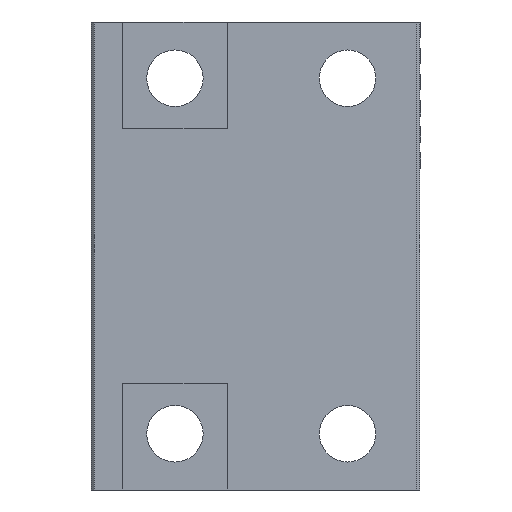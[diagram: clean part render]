
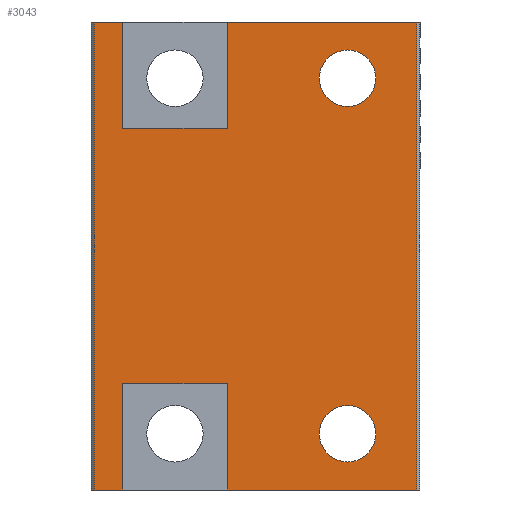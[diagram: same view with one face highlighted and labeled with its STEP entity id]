
A CAD part, front view. The second image highlights one B-rep face of the part: STEP entity #3043.
In plain terms, the highlighted planar face has unit normal (0, -1, 0).
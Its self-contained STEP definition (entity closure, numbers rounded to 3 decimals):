
#604 = FACE_BOUND ( 'NONE', #2742, .T. ) ;
#605 = FACE_BOUND ( 'NONE', #3044, .T. ) ;
#658 = DIRECTION ( 'NONE',  ( 0., 0., 1. ) ) ;
#659 = DIRECTION ( 'NONE',  ( 0., 1., 0. ) ) ;
#660 = CARTESIAN_POINT ( 'NONE',  ( 33., 6.8, 34. ) ) ;
#661 = AXIS2_PLACEMENT_3D ( 'NONE', #660, #659, #658 ) ;
#662 = DIRECTION ( 'NONE',  ( 0., 0., 1. ) ) ;
#663 = DIRECTION ( 'NONE',  ( 0., 1., 0. ) ) ;
#664 = CARTESIAN_POINT ( 'NONE',  ( 10., 6.8, 44.75 ) ) ;
#665 = AXIS2_PLACEMENT_3D ( 'NONE', #664, #663, #662 ) ;
#666 = CIRCLE ( 'NONE', #661, 5.4 ) ;
#667 = PLANE ( 'NONE',  #665 ) ;
#668 = FACE_OUTER_BOUND ( 'NONE', #2810, .T. ) ;
#2232 = DIRECTION ( 'NONE',  ( -1., 0., 0. ) ) ;
#2233 = VECTOR ( 'NONE', #2232, 1000. ) ;
#2234 = CARTESIAN_POINT ( 'NONE',  ( -16., 6.8, -24.4 ) ) ;
#2235 = LINE ( 'NONE', #2234, #2233 ) ;
#2236 = DIRECTION ( 'NONE',  ( 0., 0., -1. ) ) ;
#2237 = VECTOR ( 'NONE', #2236, 1000. ) ;
#2238 = CARTESIAN_POINT ( 'NONE',  ( 46.2, 6.8, 44.751 ) ) ;
#2239 = LINE ( 'NONE', #2238, #2237 ) ;
#2241 = CARTESIAN_POINT ( 'NONE',  ( 46.2, 6.8, -44.75 ) ) ;
#2242 = DIRECTION ( 'NONE',  ( 1., 0., 0. ) ) ;
#2243 = VECTOR ( 'NONE', #2242, 1000. ) ;
#2244 = CARTESIAN_POINT ( 'NONE',  ( 10., 6.8, -44.75 ) ) ;
#2245 = LINE ( 'NONE', #2244, #2243 ) ;
#2253 = CARTESIAN_POINT ( 'NONE',  ( 10., 6.8, -44.75 ) ) ;
#2289 = CARTESIAN_POINT ( 'NONE',  ( -10., 6.8, 24.4 ) ) ;
#2290 = DIRECTION ( 'NONE',  ( 1., 0., 0. ) ) ;
#2291 = VECTOR ( 'NONE', #2290, 1000. ) ;
#2292 = CARTESIAN_POINT ( 'NONE',  ( -16., 6.8, 24.4 ) ) ;
#2293 = LINE ( 'NONE', #2292, #2291 ) ;
#2294 = CARTESIAN_POINT ( 'NONE',  ( 10., 6.8, 24.4 ) ) ;
#2295 = DIRECTION ( 'NONE',  ( 0., 0., -1. ) ) ;
#2296 = VECTOR ( 'NONE', #2295, 1000. ) ;
#2297 = CARTESIAN_POINT ( 'NONE',  ( 10., 6.8, 44.75 ) ) ;
#2298 = LINE ( 'NONE', #2297, #2296 ) ;
#2299 = CARTESIAN_POINT ( 'NONE',  ( 10., 6.8, 44.75 ) ) ;
#2300 = DIRECTION ( 'NONE',  ( 1., 0., 0. ) ) ;
#2301 = VECTOR ( 'NONE', #2300, 1000. ) ;
#2302 = CARTESIAN_POINT ( 'NONE',  ( 10., 6.8, 44.75 ) ) ;
#2303 = LINE ( 'NONE', #2302, #2301 ) ;
#2304 = CARTESIAN_POINT ( 'NONE',  ( 46.2, 6.8, 44.75 ) ) ;
#2305 = CARTESIAN_POINT ( 'NONE',  ( -10., 6.8, -24.4 ) ) ;
#2306 = DIRECTION ( 'NONE',  ( 1., 0., 0. ) ) ;
#2307 = VECTOR ( 'NONE', #2306, 1000. ) ;
#2308 = CARTESIAN_POINT ( 'NONE',  ( -16., 6.8, -44.75 ) ) ;
#2309 = LINE ( 'NONE', #2308, #2307 ) ;
#2629 = EDGE_CURVE ( 'NONE', #2630, #2631, #5017, .T. ) ;
#2630 = VERTEX_POINT ( 'NONE', #5013 ) ;
#2631 = VERTEX_POINT ( 'NONE', #5012 ) ;
#2651 = EDGE_CURVE ( 'NONE', #2652, #2653, #5112, .T. ) ;
#2652 = VERTEX_POINT ( 'NONE', #5107 ) ;
#2653 = VERTEX_POINT ( 'NONE', #5106 ) ;
#2682 = VERTEX_POINT ( 'NONE', #5024 ) ;
#2742 = EDGE_LOOP ( 'NONE', ( #2743, #2745 ) ) ;
#2743 = ORIENTED_EDGE ( 'NONE', *, *, #2744, .T. ) ;
#2744 = EDGE_CURVE ( 'NONE', #2631, #2630, #5165, .T. ) ;
#2745 = ORIENTED_EDGE ( 'NONE', *, *, #2629, .T. ) ;
#2810 = EDGE_LOOP ( 'NONE', ( #2811, #2877, #3319, #3220, #3284, #3290, #3218, #3321, #3324, #3327, #3330, #2840 ) ) ;
#2811 = ORIENTED_EDGE ( 'NONE', *, *, #2812, .T. ) ;
#2812 = EDGE_CURVE ( 'NONE', #2813, #2682, #5329, .T. ) ;
#2813 = VERTEX_POINT ( 'NONE', #5325 ) ;
#2837 = EDGE_CURVE ( 'NONE', #2879, #3289, #5341, .T. ) ;
#2838 = EDGE_CURVE ( 'NONE', #2839, #3329, #5337, .T. ) ;
#2839 = VERTEX_POINT ( 'NONE', #5143 ) ;
#2840 = ORIENTED_EDGE ( 'NONE', *, *, #2841, .F. ) ;
#2841 = EDGE_CURVE ( 'NONE', #2813, #2839, #5142, .T. ) ;
#2852 = VERTEX_POINT ( 'NONE', #5122 ) ;
#2877 = ORIENTED_EDGE ( 'NONE', *, *, #3317, .T. ) ;
#2878 = EDGE_CURVE ( 'NONE', #3318, #2852, #5178, .T. ) ;
#2879 = VERTEX_POINT ( 'NONE', #5238 ) ;
#3043 = ADVANCED_FACE ( 'NONE', ( #605, #604, #668 ), #667, .F. ) ;
#3044 = EDGE_LOOP ( 'NONE', ( #3045, #3047 ) ) ;
#3045 = ORIENTED_EDGE ( 'NONE', *, *, #3046, .T. ) ;
#3046 = EDGE_CURVE ( 'NONE', #2653, #2652, #666, .T. ) ;
#3047 = ORIENTED_EDGE ( 'NONE', *, *, #2651, .T. ) ;
#3216 = EDGE_CURVE ( 'NONE', #3289, #3217, #2245, .T. ) ;
#3217 = VERTEX_POINT ( 'NONE', #2241 ) ;
#3218 = ORIENTED_EDGE ( 'NONE', *, *, #3219, .F. ) ;
#3219 = EDGE_CURVE ( 'NONE', #3320, #3217, #2239, .T. ) ;
#3220 = ORIENTED_EDGE ( 'NONE', *, *, #3221, .F. ) ;
#3221 = EDGE_CURVE ( 'NONE', #2879, #3318, #2235, .T. ) ;
#3284 = ORIENTED_EDGE ( 'NONE', *, *, #2837, .T. ) ;
#3289 = VERTEX_POINT ( 'NONE', #2253 ) ;
#3290 = ORIENTED_EDGE ( 'NONE', *, *, #3216, .T. ) ;
#3317 = EDGE_CURVE ( 'NONE', #2682, #2852, #2309, .T. ) ;
#3318 = VERTEX_POINT ( 'NONE', #2305 ) ;
#3319 = ORIENTED_EDGE ( 'NONE', *, *, #2878, .F. ) ;
#3320 = VERTEX_POINT ( 'NONE', #2304 ) ;
#3321 = ORIENTED_EDGE ( 'NONE', *, *, #3322, .F. ) ;
#3322 = EDGE_CURVE ( 'NONE', #3323, #3320, #2303, .T. ) ;
#3323 = VERTEX_POINT ( 'NONE', #2299 ) ;
#3324 = ORIENTED_EDGE ( 'NONE', *, *, #3325, .T. ) ;
#3325 = EDGE_CURVE ( 'NONE', #3323, #3326, #2298, .T. ) ;
#3326 = VERTEX_POINT ( 'NONE', #2294 ) ;
#3327 = ORIENTED_EDGE ( 'NONE', *, *, #3328, .F. ) ;
#3328 = EDGE_CURVE ( 'NONE', #3329, #3326, #2293, .T. ) ;
#3329 = VERTEX_POINT ( 'NONE', #2289 ) ;
#3330 = ORIENTED_EDGE ( 'NONE', *, *, #2838, .F. ) ;
#4898 = CARTESIAN_POINT ( 'NONE',  ( 33., 6.8, -34. ) ) ;
#5012 = CARTESIAN_POINT ( 'NONE',  ( 33., 6.8, -28.6 ) ) ;
#5013 = CARTESIAN_POINT ( 'NONE',  ( 33., 6.8, -39.4 ) ) ;
#5014 = DIRECTION ( 'NONE',  ( 0., 0., 1. ) ) ;
#5015 = DIRECTION ( 'NONE',  ( 0., 1., 0. ) ) ;
#5016 = AXIS2_PLACEMENT_3D ( 'NONE', #4898, #5015, #5014 ) ;
#5017 = CIRCLE ( 'NONE', #5016, 5.4 ) ;
#5024 = CARTESIAN_POINT ( 'NONE',  ( -15.4, 6.8, -44.75 ) ) ;
#5106 = CARTESIAN_POINT ( 'NONE',  ( 33., 6.8, 39.4 ) ) ;
#5107 = CARTESIAN_POINT ( 'NONE',  ( 33., 6.8, 28.6 ) ) ;
#5108 = DIRECTION ( 'NONE',  ( 0., 0., 1. ) ) ;
#5109 = DIRECTION ( 'NONE',  ( 0., 1., 0. ) ) ;
#5110 = CARTESIAN_POINT ( 'NONE',  ( 33., 6.8, 34. ) ) ;
#5111 = AXIS2_PLACEMENT_3D ( 'NONE', #5110, #5109, #5108 ) ;
#5112 = CIRCLE ( 'NONE', #5111, 5.4 ) ;
#5122 = CARTESIAN_POINT ( 'NONE',  ( -10., 6.8, -44.75 ) ) ;
#5139 = DIRECTION ( 'NONE',  ( 1., 0., 0. ) ) ;
#5140 = VECTOR ( 'NONE', #5139, 1000. ) ;
#5141 = CARTESIAN_POINT ( 'NONE',  ( -16., 6.8, 44.75 ) ) ;
#5142 = LINE ( 'NONE', #5141, #5140 ) ;
#5143 = CARTESIAN_POINT ( 'NONE',  ( -10., 6.8, 44.75 ) ) ;
#5144 = DIRECTION ( 'NONE',  ( 0., 0., -1. ) ) ;
#5145 = VECTOR ( 'NONE', #5144, 1000. ) ;
#5161 = DIRECTION ( 'NONE',  ( 0., 0., 1. ) ) ;
#5162 = DIRECTION ( 'NONE',  ( 0., 1., 0. ) ) ;
#5163 = CARTESIAN_POINT ( 'NONE',  ( 33., 6.8, -34. ) ) ;
#5164 = AXIS2_PLACEMENT_3D ( 'NONE', #5163, #5162, #5161 ) ;
#5165 = CIRCLE ( 'NONE', #5164, 5.4 ) ;
#5177 = CARTESIAN_POINT ( 'NONE',  ( -10., 6.8, 44.75 ) ) ;
#5178 = LINE ( 'NONE', #5177, #5240 ) ;
#5238 = CARTESIAN_POINT ( 'NONE',  ( 10., 6.8, -24.4 ) ) ;
#5239 = DIRECTION ( 'NONE',  ( 0., 0., -1. ) ) ;
#5240 = VECTOR ( 'NONE', #5239, 1000. ) ;
#5325 = CARTESIAN_POINT ( 'NONE',  ( -15.4, 6.8, 44.75 ) ) ;
#5326 = DIRECTION ( 'NONE',  ( 0., 0., -1. ) ) ;
#5327 = VECTOR ( 'NONE', #5326, 1000. ) ;
#5328 = CARTESIAN_POINT ( 'NONE',  ( -15.4, 6.8, 44.751 ) ) ;
#5329 = LINE ( 'NONE', #5328, #5327 ) ;
#5336 = CARTESIAN_POINT ( 'NONE',  ( -10., 6.8, 44.75 ) ) ;
#5337 = LINE ( 'NONE', #5336, #5145 ) ;
#5338 = DIRECTION ( 'NONE',  ( 0., 0., -1. ) ) ;
#5339 = VECTOR ( 'NONE', #5338, 1000. ) ;
#5340 = CARTESIAN_POINT ( 'NONE',  ( 10., 6.8, 44.75 ) ) ;
#5341 = LINE ( 'NONE', #5340, #5339 ) ;
